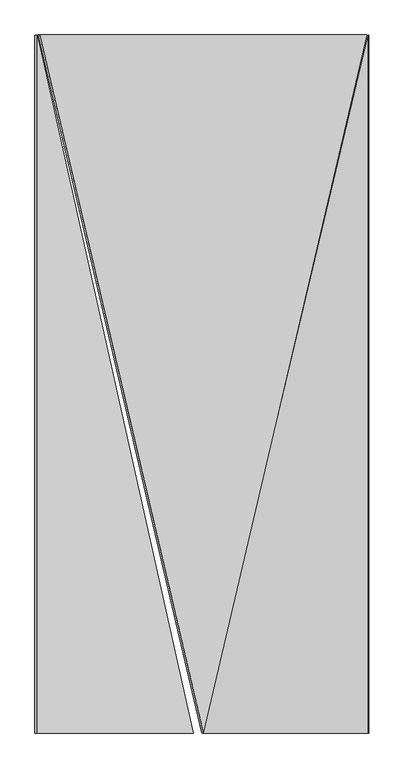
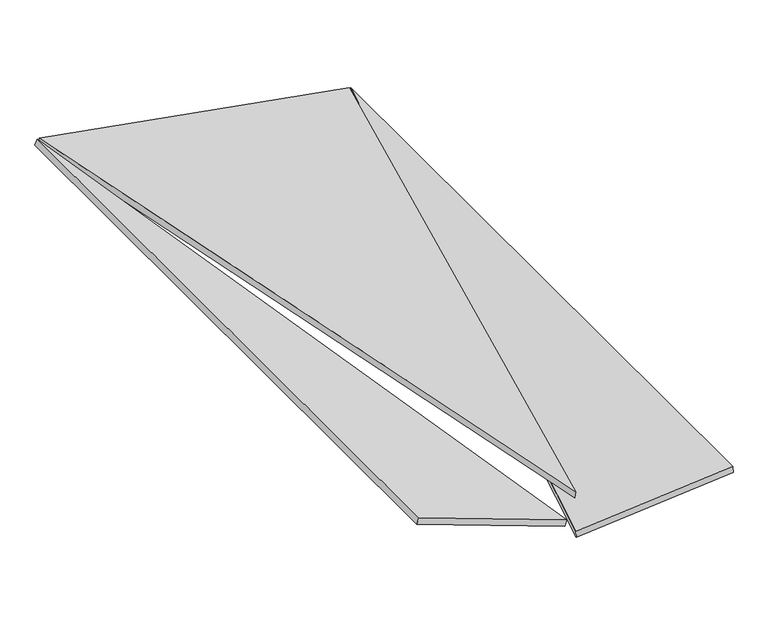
"""IFC4 building model written with IfcOpenShell, lengths in millimetres: proxy geometry, panel sufitowy 6 : panel sufitowy 6."""

import ifcopenshell
import ifcopenshell.guid

model = None  # the IFC model being written
_history = None  # IfcOwnerHistory: only IFC2X3 demands one
_inside = {}  # id of a spatial element -> (the spatial element, [elements in it])
_under = {}  # id of a project, library or spatial element -> (it, [spatial elements below it])
_declared = {}  # id of a project -> (the project, [libraries it declares])
_typed = {}  # id of a type object -> (the type object, [elements of that type])
_made_of = {}  # id of a material, layer set ... -> (it, [elements and type objects made of it])


def new_model(schema):
    """Start an empty IFC model of exactly this schema.

    Asked for "IFC4X3", IfcOpenShell would pick the latest addendum, in which some entities
    have other attributes; the version numbers below select the first issue.
    IFC2X3 requires an IfcOwnerHistory on every rooted entity: one is made here for all.
    """
    global model, _history
    if schema == "IFC4X3":
        model = ifcopenshell.file(schema_version=(4, 3, 0, 0))
    else:
        model = ifcopenshell.file(schema=schema)
    _inside.clear()
    _under.clear()
    _declared.clear()
    _typed.clear()
    _made_of.clear()
    _history = None
    if model.schema == "IFC2X3":
        org = make("IfcOrganization", Name="unknown")
        user = make(
            "IfcPersonAndOrganization",
            ThePerson=make("IfcPerson", FamilyName="unknown"),
            TheOrganization=org,
        )
        app = make(
            "IfcApplication",
            ApplicationDeveloper=org,
            Version="unknown",
            ApplicationFullName="unknown",
            ApplicationIdentifier="unknown",
        )
        _history = make(
            "IfcOwnerHistory",
            OwningUser=user,
            OwningApplication=app,
            ChangeAction="ADDED",
            CreationDate=0,
        )
    return model


def make(cls, **values):
    """One entity of the class cls with the attributes given. An attribute that is None is left unset."""
    return model.create_entity(
        cls, **{name: value for name, value in values.items() if value is not None}
    )


def rooted(cls, **values):
    """An entity with a GlobalId (a new one), such as an element, a storey or a relation."""
    return make(cls, GlobalId=ifcopenshell.guid.new(), OwnerHistory=_history, **values)


def si_unit(unit_type, name, prefix=None):
    """IfcSIUnit, for example si_unit("LENGTHUNIT", "METRE", prefix="MILLI")."""
    return make("IfcSIUnit", UnitType=unit_type, Prefix=prefix, Name=name)


def assignment(units):
    """IfcUnitAssignment: the units of a project."""
    return None if units is None else make("IfcUnitAssignment", Units=units)


def point(xyz):
    """IfcCartesianPoint."""
    return None if xyz is None else make("IfcCartesianPoint", Coordinates=xyz)


def direction(xyz):
    """IfcDirection."""
    return None if xyz is None else make("IfcDirection", DirectionRatios=xyz)


def frame(location, z_axis=None, x_axis=None):
    """IfcAxis2Placement3D, a coordinate frame: its origin and axes. An axis left out is left unset."""
    return make(
        "IfcAxis2Placement3D",
        Location=point(location),
        Axis=direction(z_axis),
        RefDirection=direction(x_axis),
    )


def origin():
    """The frame at (0, 0, 0) with its axes left unset."""
    return frame((0.0, 0.0, 0.0))


def place(relative_to, where):
    """IfcLocalPlacement: puts the frame where relative to a parent placement (None: the world)."""
    return make(
        "IfcLocalPlacement", PlacementRelTo=relative_to, RelativePlacement=where
    )


def context(
    kind, dimensions, precision=None, world=None, true_north=None, identifier=None
):
    """IfcGeometricRepresentationContext, for example the 3D "Model" context."""
    return make(
        "IfcGeometricRepresentationContext",
        ContextIdentifier=identifier,
        ContextType=kind,
        CoordinateSpaceDimension=dimensions,
        Precision=precision,
        WorldCoordinateSystem=world,
        TrueNorth=true_north,
    )


def project(units=None, contexts=None):
    """IfcProject with its units and contexts."""
    return rooted(
        "IfcProject",
        Name="project",
        RepresentationContexts=contexts,
        UnitsInContext=assignment(units),
    )


def spatial(cls, under=None, at=None, **own):
    """A site, building, storey or space (cls), placed at a placement, below another one or the project."""
    s = rooted(cls, ObjectPlacement=at, **own)
    if under is not None:
        _under.setdefault(under.id(), (under, []))[1].append(s)
    return s


def polyline(points):
    """IfcPolyline through the points."""
    return make("IfcPolyline", Points=[point(p) for p in points])


def outline(outer, holes=None, kind="AREA"):
    """IfcArbitraryClosedProfileDef: a profile drawn as a closed curve; with holes, ...WithVoids."""
    if holes is None:
        return make("IfcArbitraryClosedProfileDef", ProfileType=kind, OuterCurve=outer)
    return make(
        "IfcArbitraryProfileDefWithVoids",
        ProfileType=kind,
        OuterCurve=outer,
        InnerCurves=holes,
    )


def extrude(swept, where, along, depth):
    """IfcExtrudedAreaSolid: the profile swept, set in the frame where, extruded along a direction by depth."""
    return make(
        "IfcExtrudedAreaSolid",
        SweptArea=swept,
        Position=where,
        ExtrudedDirection=direction(along),
        Depth=depth,
    )


def shape(context_of_items, identifier, shape_type, items):
    """IfcShapeRepresentation: the items that make up one representation, for example the "Body"."""
    return make(
        "IfcShapeRepresentation",
        ContextOfItems=context_of_items,
        RepresentationIdentifier=identifier,
        RepresentationType=shape_type,
        Items=items,
    )


def source(mapping_origin, context_of_items, identifier, shape_type, items):
    """IfcRepresentationMap: a shape defined once, which mapped items show again and again."""
    return make(
        "IfcRepresentationMap",
        MappingOrigin=mapping_origin,
        MappedRepresentation=shape(context_of_items, identifier, shape_type, items),
    )


def transform(
    local_origin,
    x_axis=None,
    y_axis=None,
    z_axis=None,
    scale=None,
    scale2=None,
    scale3=None,
    uniform=True,
):
    """IfcCartesianTransformationOperator3D, or its non-uniform kind. x_axis, y_axis, z_axis: its Axis1, 2, 3."""
    if uniform:
        return make(
            "IfcCartesianTransformationOperator3D",
            Axis1=direction(x_axis),
            Axis2=direction(y_axis),
            LocalOrigin=point(local_origin),
            Scale=scale,
            Axis3=direction(z_axis),
        )
    return make(
        "IfcCartesianTransformationOperator3DnonUniform",
        Axis1=direction(x_axis),
        Axis2=direction(y_axis),
        LocalOrigin=point(local_origin),
        Scale=scale,
        Axis3=direction(z_axis),
        Scale2=scale2,
        Scale3=scale3,
    )


def mapped(mapping_source, mapping_target):
    """IfcMappedItem: shows the shape of a source again, moved by a transform."""
    return make(
        "IfcMappedItem", MappingSource=mapping_source, MappingTarget=mapping_target
    )


def made_of(thing, what):
    """Note that an element or type object is made of a material, layer set ...; save() writes the relation."""
    if what is not None:
        _made_of.setdefault(what.id(), (what, []))[1].append(thing)
    return thing


def element(
    cls,
    number,
    at=None,
    inside=None,
    cuts=None,
    type_object=None,
    material=None,
    context=None,
    identifier="Body",
    shape_type=None,
    held_by="IfcProductDefinitionShape",
    body=None,
    shapes=None,
    **own,
):
    """One element of the class cls, such as IfcWall. Its Tag is "e" and its number.

    at: its placement. inside: the storey or other place that contains it. cuts: it is an
    opening in that element (IfcRelVoidsElement). A single representation is given by context,
    identifier, shape_type and body (its items); several are given by shapes. held_by: the class
    of the entity that holds the representations. save() writes the other relations.
    """
    e = rooted(cls, Tag="e%d" % number, ObjectPlacement=at, **own)
    if body is not None:
        shapes = [shape(context, identifier, shape_type, body)]
    if shapes is not None:
        e.Representation = make(held_by, Representations=shapes)
    if inside is not None:
        _inside.setdefault(inside.id(), (inside, []))[1].append(e)
    if cuts is not None:
        rooted(
            "IfcRelVoidsElement", RelatingBuildingElement=cuts, RelatedOpeningElement=e
        )
    if type_object is not None:
        _typed.setdefault(type_object.id(), (type_object, []))[1].append(e)
    return made_of(e, material)


def aggregate(whole, parts):
    """IfcRelAggregates: a whole, such as a stair, and the parts it consists of."""
    return rooted("IfcRelAggregates", RelatingObject=whole, RelatedObjects=parts)


def save(model, path):
    """Write the relations noted so far, then the file.

    IfcRelAggregates (storeys below a building ...), IfcRelContainedInSpatialStructure (elements
    in a storey), IfcRelDefinesByType, IfcRelAssociatesMaterial and IfcRelDeclares: one each for
    every whole, place, type object, material and project.
    """
    for whole, parts in _under.values():
        aggregate(whole, parts)
    for where, things in _inside.values():
        rooted(
            "IfcRelContainedInSpatialStructure",
            RelatedElements=things,
            RelatingStructure=where,
        )
    for kind, things in _typed.values():
        rooted("IfcRelDefinesByType", RelatedObjects=things, RelatingType=kind)
    for what, things in _made_of.values():
        rooted("IfcRelAssociatesMaterial", RelatedObjects=things, RelatingMaterial=what)
    for by, libraries in _declared.values():
        rooted("IfcRelDeclares", RelatingContext=by, RelatedDefinitions=libraries)
    model.write(path)


def generic_models_bff7fd6b(model_context):
    return source(origin(), model_context, "Body", "SweptSolid", [
        extrude(outline(polyline([(-900.9098917, 0.0), (1235.4098448, 0.0), (1006.1909889, -962.7191946), (-900.9098917, 0.0)])), frame((539.7571517, -1457.4151922, 1089.1805158), z_axis=(0.1736481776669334, 0.0, 0.9848077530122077), x_axis=(-0.2281016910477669, 0.9728062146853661, 0.040220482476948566)), (0.0, 0.0, 1.0), 20.0),
        extrude(outline(polyline([(-127.5, 0.0), (-622.4999999, 0.0), (-127.5, 2079.0), (-127.5, 0.0)])), frame((1369.323668, -2335.0, 976.4140543), z_axis=(-0.08715574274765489, 0.0, 0.9961946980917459), x_axis=(0.9961946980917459, 0.0, 0.08715574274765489)), (0.0, 0.0, 1.0), 20.0),
        extrude(outline(polyline([(-127.5000001, 0.0), (-127.5000001, -2079.0), (-622.5000001, 0.0), (-127.5000001, 0.0)])), frame((127.8422043, -2335.0, 1184.2939248), z_axis=(0.3420201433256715, 0.0, 0.9396926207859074), x_axis=(-0.9396926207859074, 0.0, 0.3420201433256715)), (0.0, 0.0, 1.0), 20.0),
    ])


if __name__ == "__main__":
    model = new_model("IFC4")
    model_context = context("Model", 3, world=origin())
    ifc_project = project(units=[si_unit("LENGTHUNIT", "METRE", prefix="MILLI")], contexts=[model_context])
    site = spatial("IfcSite", under=ifc_project)
    building = spatial("IfcBuilding", under=site)
    placement = place(None, origin())
    generic_models_shape = generic_models_bff7fd6b(model_context)
    element("IfcBuildingElementProxy", 1, Name="panel sufitowy 6 : panel sufitowy 6", ObjectType="panel sufitowy 6 : panel sufitowy 6", at=placement, inside=building, context=model_context, shape_type="MappedRepresentation", body=[
        mapped(generic_models_shape, transform((0.0, 0.0, 0.0), x_axis=(1.0, 0.0, 0.0), y_axis=(0.0, 1.0, 0.0), z_axis=(0.0, 0.0, 1.0))),
    ])
    save(model, "model.ifc")
